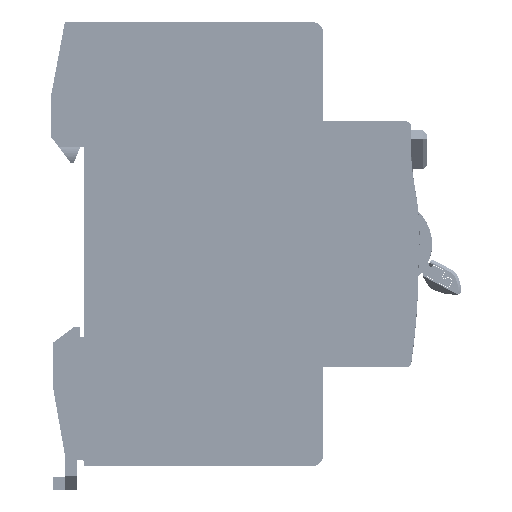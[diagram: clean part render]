
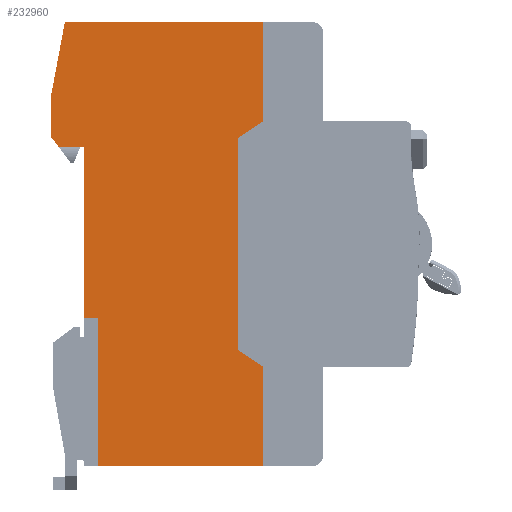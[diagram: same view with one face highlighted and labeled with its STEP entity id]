
A CAD part, front view. The second image highlights one B-rep face of the part: STEP entity #232960.
In plain terms, the highlighted planar face has unit normal (0, -1, 0).
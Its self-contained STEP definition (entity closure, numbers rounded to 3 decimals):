
#1776 = CARTESIAN_POINT ( 'NONE',  ( -2.5, 0., 29.275 ) ) ;
#4932 = CARTESIAN_POINT ( 'NONE',  ( -8.038, 0., 59.767 ) ) ;
#6644 = CARTESIAN_POINT ( 'NONE',  ( 25.85, 0., 21.25 ) ) ;
#9895 = ORIENTED_EDGE ( 'NONE', *, *, #216142, .T. ) ;
#11008 = LINE ( 'NONE', #268174, #84773 ) ;
#11119 = AXIS2_PLACEMENT_3D ( 'NONE', #213187, #38278, #87772 ) ;
#15078 = CARTESIAN_POINT ( 'NONE',  ( 25.85, 0., 60.25 ) ) ;
#16866 = LINE ( 'NONE', #218020, #235300 ) ;
#19384 = VECTOR ( 'NONE', #210294, 1000. ) ;
#20931 = VERTEX_POINT ( 'NONE', #238800 ) ;
#21579 = VERTEX_POINT ( 'NONE', #268902 ) ;
#22938 = ORIENTED_EDGE ( 'NONE', *, *, #229697, .F. ) ;
#27096 = VERTEX_POINT ( 'NONE', #318537 ) ;
#33480 = VERTEX_POINT ( 'NONE', #92807 ) ;
#35428 = CARTESIAN_POINT ( 'NONE',  ( 30.35, 0., 72.142 ) ) ;
#36575 = EDGE_CURVE ( 'NONE', #27096, #295915, #211756, .T. ) ;
#38278 = DIRECTION ( 'NONE',  ( 0., -1., 0. ) ) ;
#41821 = DIRECTION ( 'NONE',  ( 1., 0., 0. ) ) ;
#41856 = ORIENTED_EDGE ( 'NONE', *, *, #51644, .F. ) ;
#51229 = ORIENTED_EDGE ( 'NONE', *, *, #246826, .F. ) ;
#51644 = EDGE_CURVE ( 'NONE', #153694, #107426, #277318, .T. ) ;
#52896 = VERTEX_POINT ( 'NONE', #319960 ) ;
#55760 = CARTESIAN_POINT ( 'NONE',  ( 25.85, 0., 60.25 ) ) ;
#56208 = DIRECTION ( 'NONE',  ( -1., 0., 0. ) ) ;
#56730 = CARTESIAN_POINT ( 'NONE',  ( 0., 0., 40.75 ) ) ;
#56755 = CARTESIAN_POINT ( 'NONE',  ( 28.85, 0., 62.25 ) ) ;
#59306 = CARTESIAN_POINT ( 'NONE',  ( 30.35, 0., 18.25 ) ) ;
#59618 = B_SPLINE_CURVE_WITH_KNOTS ( 'NONE', 3,
 ( #15078, #310757, #56755, #203653 ),
 .UNSPECIFIED., .F., .F.,
 ( 4, 4 ),
 ( 0., 1. ),
 .UNSPECIFIED. ) ;
#61054 = CARTESIAN_POINT ( 'NONE',  ( -2.5, 0., 58.55 ) ) ;
#73162 = VECTOR ( 'NONE', #190044, 1000. ) ;
#77547 = LINE ( 'NONE', #1776, #277813 ) ;
#80669 = ORIENTED_EDGE ( 'NONE', *, *, #268765, .F. ) ;
#83251 = LINE ( 'NONE', #35428, #19384 ) ;
#84773 = VECTOR ( 'NONE', #113159, 1000. ) ;
#87772 = DIRECTION ( 'NONE',  ( 1., 0., 0. ) ) ;
#89417 = LINE ( 'NONE', #293859, #73162 ) ;
#92807 = CARTESIAN_POINT ( 'NONE',  ( 30.35, 0., 18.25 ) ) ;
#93247 = CARTESIAN_POINT ( 'NONE',  ( -8.5, 0., 64.25 ) ) ;
#93693 = VERTEX_POINT ( 'NONE', #55760 ) ;
#107426 = VERTEX_POINT ( 'NONE', #150064 ) ;
#109177 = EDGE_CURVE ( 'NONE', #107426, #21579, #227576, .T. ) ;
#113159 = DIRECTION ( 'NONE',  ( 0., 0., 1. ) ) ;
#116275 = CARTESIAN_POINT ( 'NONE',  ( -7.665, 0., 72.583 ) ) ;
#118992 = VERTEX_POINT ( 'NONE', #125346 ) ;
#119354 = ORIENTED_EDGE ( 'NONE', *, *, #215548, .T. ) ;
#121745 = EDGE_CURVE ( 'NONE', #93693, #118992, #59618, .T. ) ;
#123875 = DIRECTION ( 'NONE',  ( 0., 0., -1. ) ) ;
#125346 = CARTESIAN_POINT ( 'NONE',  ( 30.35, 0., 63.25 ) ) ;
#125361 = CARTESIAN_POINT ( 'NONE',  ( -8.5, 0., 60.375 ) ) ;
#125660 = EDGE_CURVE ( 'NONE', #223363, #118992, #83251, .T. ) ;
#128612 = CARTESIAN_POINT ( 'NONE',  ( -7.575, 0., 59.158 ) ) ;
#130983 = DIRECTION ( 'NONE',  ( 0., 0., -1. ) ) ;
#132517 = ORIENTED_EDGE ( 'NONE', *, *, #281044, .F. ) ;
#142552 = CARTESIAN_POINT ( 'NONE',  ( 30.35, 0., 81.5 ) ) ;
#145382 = ORIENTED_EDGE ( 'NONE', *, *, #36575, .T. ) ;
#150064 = CARTESIAN_POINT ( 'NONE',  ( -7.113, 0., 58.55 ) ) ;
#153694 = VERTEX_POINT ( 'NONE', #61054 ) ;
#158491 = VECTOR ( 'NONE', #41821, 1000. ) ;
#167338 = VERTEX_POINT ( 'NONE', #283426 ) ;
#170025 = ORIENTED_EDGE ( 'NONE', *, *, #309907, .F. ) ;
#187673 = CARTESIAN_POINT ( 'NONE',  ( -2.5, 0., 27.25 ) ) ;
#188888 = CARTESIAN_POINT ( 'NONE',  ( -8.5, 0., 68.125 ) ) ;
#190024 = FACE_OUTER_BOUND ( 'NONE', #220674, .T. ) ;
#190044 = DIRECTION ( 'NONE',  ( 1., 0., 0. ) ) ;
#191310 = CARTESIAN_POINT ( 'NONE',  ( 0., 0., 0. ) ) ;
#192260 = DIRECTION ( 'NONE',  ( 0., 0., 1. ) ) ;
#193652 = B_SPLINE_CURVE_WITH_KNOTS ( 'NONE', 3,
 ( #188888, #116275, #312610, #314253 ),
 .UNSPECIFIED., .F., .F.,
 ( 4, 4 ),
 ( 0., 1. ),
 .UNSPECIFIED. ) ;
#201342 = DIRECTION ( 'NONE',  ( 0., 0., 1. ) ) ;
#203653 = CARTESIAN_POINT ( 'NONE',  ( 30.35, 0., 63.25 ) ) ;
#204455 = LINE ( 'NONE', #93247, #306630 ) ;
#210294 = DIRECTION ( 'NONE',  ( 0., 0., -1. ) ) ;
#211089 = CARTESIAN_POINT ( 'NONE',  ( 27.35, 0., 20.25 ) ) ;
#211756 = LINE ( 'NONE', #56730, #299251 ) ;
#213187 = CARTESIAN_POINT ( 'NONE',  ( -8.5, 0., 0. ) ) ;
#214439 = EDGE_CURVE ( 'NONE', #167338, #93693, #11008, .T. ) ;
#215104 = LINE ( 'NONE', #241424, #158491 ) ;
#215548 = EDGE_CURVE ( 'NONE', #256734, #27096, #215104, .T. ) ;
#216142 = EDGE_CURVE ( 'NONE', #33480, #167338, #270306, .T. ) ;
#217247 = DIRECTION ( 'NONE',  ( -1., 0., 0. ) ) ;
#218020 = CARTESIAN_POINT ( 'NONE',  ( 30.35, 0., 9.358 ) ) ;
#220674 = EDGE_LOOP ( 'NONE', ( #250531, #317716, #132517, #238311, #51229, #255068, #41856, #170025, #119354, #145382, #80669, #22938, #9895, #230186 ) ) ;
#223363 = VERTEX_POINT ( 'NONE', #142552 ) ;
#227576 = B_SPLINE_CURVE_WITH_KNOTS ( 'NONE', 3,
 ( #275451, #128612, #4932, #125361 ),
 .UNSPECIFIED., .F., .F.,
 ( 4, 4 ),
 ( 0., 1. ),
 .UNSPECIFIED. ) ;
#229697 = EDGE_CURVE ( 'NONE', #33480, #305719, #16866, .T. ) ;
#230186 = ORIENTED_EDGE ( 'NONE', *, *, #214439, .T. ) ;
#232960 = ADVANCED_FACE ( 'NONE', ( #190024 ), #237884, .T. ) ;
#235300 = VECTOR ( 'NONE', #123875, 1000. ) ;
#235778 = CARTESIAN_POINT ( 'NONE',  ( 28.85, 0., 19.25 ) ) ;
#237884 = PLANE ( 'NONE',  #11119 ) ;
#238311 = ORIENTED_EDGE ( 'NONE', *, *, #303570, .F. ) ;
#238800 = CARTESIAN_POINT ( 'NONE',  ( -5.995, 0., 81.5 ) ) ;
#241424 = CARTESIAN_POINT ( 'NONE',  ( 10.925, 0., 27.25 ) ) ;
#246826 = EDGE_CURVE ( 'NONE', #21579, #52896, #204455, .T. ) ;
#250531 = ORIENTED_EDGE ( 'NONE', *, *, #121745, .T. ) ;
#251194 = VECTOR ( 'NONE', #217247, 1000. ) ;
#255068 = ORIENTED_EDGE ( 'NONE', *, *, #109177, .F. ) ;
#256734 = VERTEX_POINT ( 'NONE', #187673 ) ;
#268174 = CARTESIAN_POINT ( 'NONE',  ( 25.85, 0., 40.75 ) ) ;
#268765 = EDGE_CURVE ( 'NONE', #305719, #295915, #316190, .T. ) ;
#268902 = CARTESIAN_POINT ( 'NONE',  ( -8.5, 0., 60.375 ) ) ;
#270306 = B_SPLINE_CURVE_WITH_KNOTS ( 'NONE', 3,
 ( #59306, #235778, #211089, #6644 ),
 .UNSPECIFIED., .F., .F.,
 ( 4, 4 ),
 ( 0., 1. ),
 .UNSPECIFIED. ) ;
#275451 = CARTESIAN_POINT ( 'NONE',  ( -7.113, 0., 58.55 ) ) ;
#277318 = LINE ( 'NONE', #278932, #301584 ) ;
#277813 = VECTOR ( 'NONE', #201342, 1000. ) ;
#278932 = CARTESIAN_POINT ( 'NONE',  ( -4.807, 0., 58.55 ) ) ;
#281044 = EDGE_CURVE ( 'NONE', #20931, #223363, #89417, .T. ) ;
#283426 = CARTESIAN_POINT ( 'NONE',  ( 25.85, 0., 21.25 ) ) ;
#293859 = CARTESIAN_POINT ( 'NONE',  ( 12.177, 0., 81.5 ) ) ;
#295915 = VERTEX_POINT ( 'NONE', #191310 ) ;
#296277 = CARTESIAN_POINT ( 'NONE',  ( 13.925, 0., 0. ) ) ;
#299251 = VECTOR ( 'NONE', #130983, 1000. ) ;
#301584 = VECTOR ( 'NONE', #56208, 1000. ) ;
#303570 = EDGE_CURVE ( 'NONE', #52896, #20931, #193652, .T. ) ;
#303631 = CARTESIAN_POINT ( 'NONE',  ( 30.35, 0., 0. ) ) ;
#305719 = VERTEX_POINT ( 'NONE', #303631 ) ;
#306630 = VECTOR ( 'NONE', #192260, 1000. ) ;
#309907 = EDGE_CURVE ( 'NONE', #256734, #153694, #77547, .T. ) ;
#310757 = CARTESIAN_POINT ( 'NONE',  ( 27.35, 0., 61.25 ) ) ;
#312610 = CARTESIAN_POINT ( 'NONE',  ( -6.83, 0., 77.042 ) ) ;
#314253 = CARTESIAN_POINT ( 'NONE',  ( -5.995, 0., 81.5 ) ) ;
#316190 = LINE ( 'NONE', #296277, #251194 ) ;
#317716 = ORIENTED_EDGE ( 'NONE', *, *, #125660, .F. ) ;
#318537 = CARTESIAN_POINT ( 'NONE',  ( 0., 0., 27.25 ) ) ;
#319960 = CARTESIAN_POINT ( 'NONE',  ( -8.5, 0., 68.125 ) ) ;
